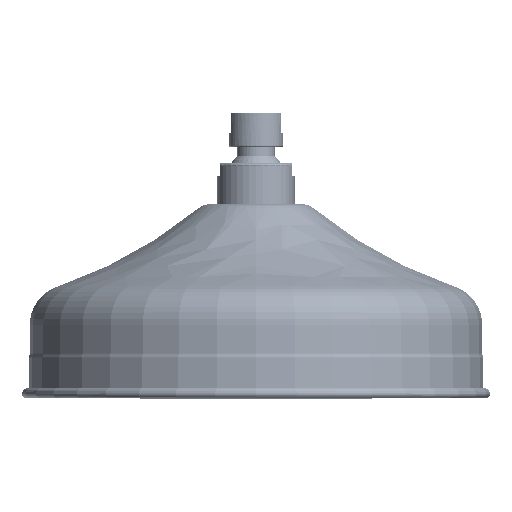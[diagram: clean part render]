
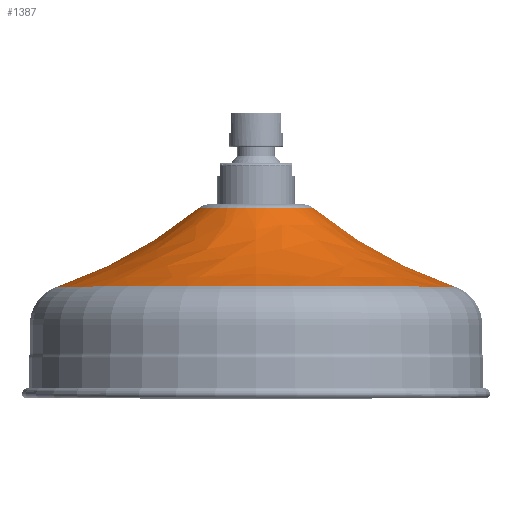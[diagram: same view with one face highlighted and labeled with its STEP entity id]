
A CAD part, top view. The second image highlights one B-rep face of the part: STEP entity #1387.
In plain terms, the highlighted free-form (B-spline) face has degree [3, 3] with [4, 4] control points.
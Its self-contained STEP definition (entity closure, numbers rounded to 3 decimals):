
#644=CARTESIAN_POINT('',(0.,83.785,0.));
#645=DIRECTION('',(0.,1.,0.));
#646=DIRECTION('',(-1.,0.,0.));
#647=AXIS2_PLACEMENT_3D('',#644,#645,#646);
#652=CARTESIAN_POINT('',(151.857,237.957,0.));
#653=DIRECTION('',(0.,0.,-1.));
#654=DIRECTION('',(-0.322,-0.947,0.));
#655=AXIS2_PLACEMENT_3D('',#652,#653,#654);
#660=CARTESIAN_POINT('',(0.,49.179,0.));
#661=DIRECTION('',(0.,1.,0.));
#662=DIRECTION('',(-1.,0.,0.));
#663=AXIS2_PLACEMENT_3D('',#660,#661,#662);
#668=CARTESIAN_POINT('',(-151.857,237.957,
0.));
#669=DIRECTION('',(0.,0.,1.));
#670=DIRECTION('',(0.322,-0.947,0.));
#671=AXIS2_PLACEMENT_3D('',#668,#669,#670);
#730=CARTESIAN_POINT('',(87.646,49.179,0.));
#731=CARTESIAN_POINT('',(-87.646,49.179,
0.));
#732=VERTEX_POINT('',#730);
#733=VERTEX_POINT('',#731);
#750=CARTESIAN_POINT('',(25.4,83.785,0.));
#751=CARTESIAN_POINT('',(-25.4,83.785,0.));
#752=VERTEX_POINT('',#750);
#753=VERTEX_POINT('',#751);
#1363=CARTESIAN_POINT('',(-25.4,83.785,
0.));
#1364=CARTESIAN_POINT('',(-43.954,68.567,
0.));
#1365=CARTESIAN_POINT('',(-64.927,56.906,
0.));
#1366=CARTESIAN_POINT('',(-87.646,49.179,
0.));
#1367=CARTESIAN_POINT('',(-25.4,83.785,50.799));
#1368=CARTESIAN_POINT('',(-43.954,68.567,87.908));
#1369=CARTESIAN_POINT('',(-64.927,56.906,129.855));
#1370=CARTESIAN_POINT('',(-87.646,49.179,175.293));
#1371=CARTESIAN_POINT('',(25.4,83.785,50.799));
#1372=CARTESIAN_POINT('',(43.954,68.567,87.908));
#1373=CARTESIAN_POINT('',(64.927,56.906,129.855));
#1374=CARTESIAN_POINT('',(87.646,49.179,175.293));
#1375=CARTESIAN_POINT('',(25.4,83.785,0.));
#1376=CARTESIAN_POINT('',(43.954,68.567,0.));
#1377=CARTESIAN_POINT('',(64.927,56.906,0.));
#1378=CARTESIAN_POINT('',(87.646,49.179,0.));
#1379=(BOUNDED_SURFACE()B_SPLINE_SURFACE(3,3,((#1363,#1364,#1365,#1366),(#1367,
#1368,#1369,#1370),(#1371,#1372,#1373,#1374),(#1375,#1376,#1377,#1378)),
.UNSPECIFIED.,.F.,.F.,.F.)B_SPLINE_SURFACE_WITH_KNOTS((4,4),(4,4),(0.,1.),(
0.,1.),.UNSPECIFIED.)GEOMETRIC_REPRESENTATION_ITEM()RATIONAL_B_SPLINE_SURFACE(((2.016,1.995,1.995,2.016),(
0.672,0.665,0.665,0.672),(
0.672,0.665,0.665,0.672),(
2.016,1.995,1.995,2.016)))REPRESENTATION_ITEM('')SURFACE());
#1380=ORIENTED_EDGE('',*,*,#1357,.T.);
#1381=ORIENTED_EDGE('',*,*,#1313,.F.);
#1383=ORIENTED_EDGE('',*,*,#1382,.F.);
#1384=ORIENTED_EDGE('',*,*,#1310,.T.);
#1385=EDGE_LOOP('',(#1380,#1381,#1383,#1384));
#1386=FACE_OUTER_BOUND('',#1385,.F.);
#1387=ADVANCED_FACE('',(#1386),#1379,.F.);
#648=CIRCLE('',#647,25.4);
#656=CIRCLE('',#655,199.4);
#664=CIRCLE('',#663,87.646);
#672=CIRCLE('',#671,199.4);
#1310=EDGE_CURVE('',#733,#753,#672,.T.);
#1313=EDGE_CURVE('',#732,#752,#656,.T.);
#1357=EDGE_CURVE('',#753,#752,#648,.T.);
#1382=EDGE_CURVE('',#733,#732,#664,.T.);
